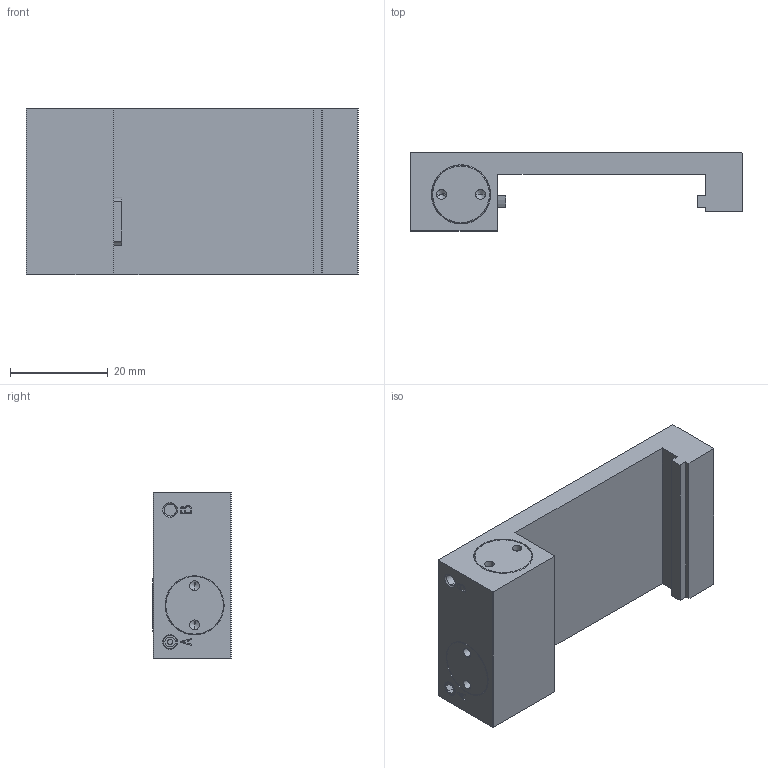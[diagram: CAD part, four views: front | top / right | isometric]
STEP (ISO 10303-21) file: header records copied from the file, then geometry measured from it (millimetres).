
FILE_DESCRIPTION( ( '' ), '1' );
FILE_NAME( 'E:/04 嬴檜蠱滌/0404 ZIMMER/040414 ZIMMER CAD download/MCP/MCP1505E---.stp', '2020-04-16T10:02:42', ( '' ), ( '' ), ' ', ' ', ' ' );
FILE_SCHEMA( ( 'automotive_design' ) );
Length unit declared in the file: millimetre
Products named in the file (1): 1
Bounding box: 68 x 16.05 x 34 mm (x, y, z)
Volume: 19221.4 mm3; surface area: 7933.8 mm2
Topology: 1 solids, 1 shells, 121 faces, 286 edges, 180 vertices
Faces by surface type: plane 67, cylinder 32, cone 22
Entity records: 6686 total; most frequent: DIRECTION 602, STYLED_ITEM 580, PRESENTATION_STYLE_ASSIGNMENT 580, CARTESIAN_POINT 580, COLOUR_RGB 580, ORIENTED_EDGE 556, EDGE_CURVE 278, CURVE_STYLE 278
